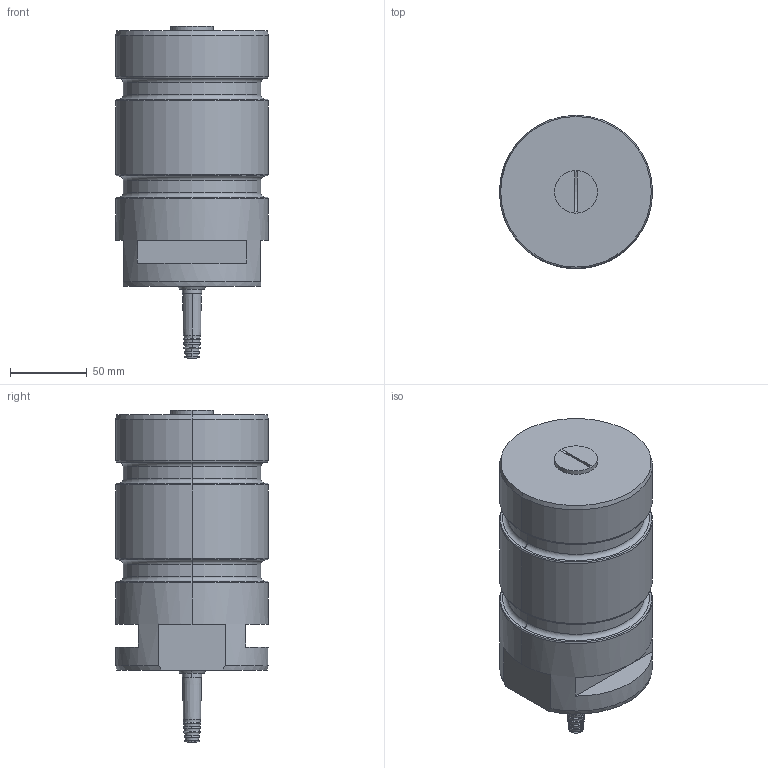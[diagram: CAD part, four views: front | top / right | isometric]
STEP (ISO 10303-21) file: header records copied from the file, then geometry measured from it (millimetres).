
FILE_DESCRIPTION (( 'STEP AP214' ), '1' );
FILE_NAME ('KOSD-40 500 kN Load Cell.STEP', '2021-03-15T10:06:41', ( '' ), ( '' ), 'SwSTEP 2.0', 'SolidWorks 2021', '' );
FILE_SCHEMA (( 'AUTOMOTIVE_DESIGN' ));
Length unit declared in the file: millimetre
Products named in the file (5): KOSD-40 500 kN Load Cell; M26x1.5 - Pg9 - 6369829; 4400266r0; Pg9 - 1009.52 6_2_14; M26x1.5 - Lock - 600490r1
Assembly tree (4 placements, depth 2):
  KOSD-40 500 kN Load Cell
    4400266r0
    M26x1.5 - Lock - 600490r1
    M26x1.5 - Pg9 - 6369829
    Pg9 - 1009.52 6_2_14
Bounding box: 100 x 100 x 217 mm (x, y, z)
Volume: 1204165.2 mm3; surface area: 89896.2 mm2
Topology: 4 solids, 7 shells, 218 faces, 498 edges, 313 vertices
Faces by surface type: cylinder 68, cone 59, plane 57, torus 18, bspline 16
Entity records: 10914 total; most frequent: CARTESIAN_POINT 5454, DIRECTION 1026, ORIENTED_EDGE 992, EDGE_CURVE 496, AXIS2_PLACEMENT_3D 440, VERTEX_POINT 313, EDGE_LOOP 249, CIRCLE 231
